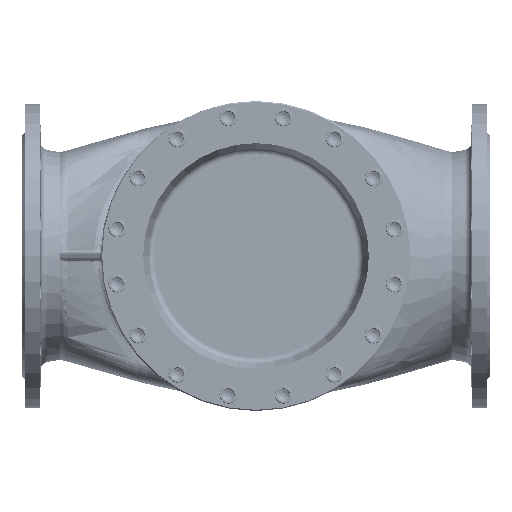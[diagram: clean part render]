
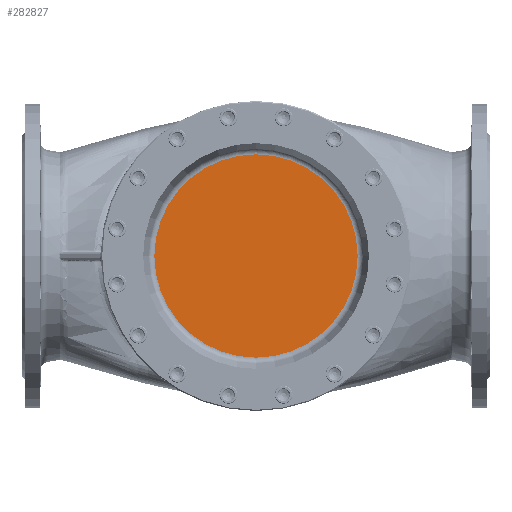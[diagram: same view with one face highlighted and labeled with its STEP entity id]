
A CAD part, front view. The second image highlights one B-rep face of the part: STEP entity #282827.
In plain terms, the highlighted planar face has unit normal (0, -1, 0).
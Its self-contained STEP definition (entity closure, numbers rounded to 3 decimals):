
#282039=CARTESIAN_POINT('',(0.,-220.,0.));
#282040=DIRECTION('',(0.,-1.,0.));
#282041=DIRECTION('',(0.,0.,-1.));
#282042=AXIS2_PLACEMENT_3D('',#282039,#282040,#282041);
#282044=CARTESIAN_POINT('',(0.,-220.,0.));
#282045=DIRECTION('',(0.,-1.,0.));
#282046=DIRECTION('',(0.,0.,1.));
#282047=AXIS2_PLACEMENT_3D('',#282044,#282045,#282046);
#282560=CARTESIAN_POINT('',(0.,-220.,135.111));
#282561=CARTESIAN_POINT('',(0.,-220.,-135.111));
#282562=VERTEX_POINT('',#282560);
#282563=VERTEX_POINT('',#282561);
#282816=CARTESIAN_POINT('',(0.,-220.,0.));
#282817=DIRECTION('',(0.,-1.,0.));
#282818=DIRECTION('',(0.,0.,-1.));
#282819=AXIS2_PLACEMENT_3D('',#282816,#282817,#282818);
#282820=PLANE('',#282819);
#282822=ORIENTED_EDGE('',*,*,#282821,.F.);
#282824=ORIENTED_EDGE('',*,*,#282823,.F.);
#282825=EDGE_LOOP('',(#282822,#282824));
#282826=FACE_OUTER_BOUND('',#282825,.F.);
#282827=ADVANCED_FACE('',(#282826),#282820,.T.);
#282043=CIRCLE('',#282042,135.111);
#282048=CIRCLE('',#282047,135.111);
#282821=EDGE_CURVE('',#282563,#282562,#282043,.T.);
#282823=EDGE_CURVE('',#282562,#282563,#282048,.T.);
